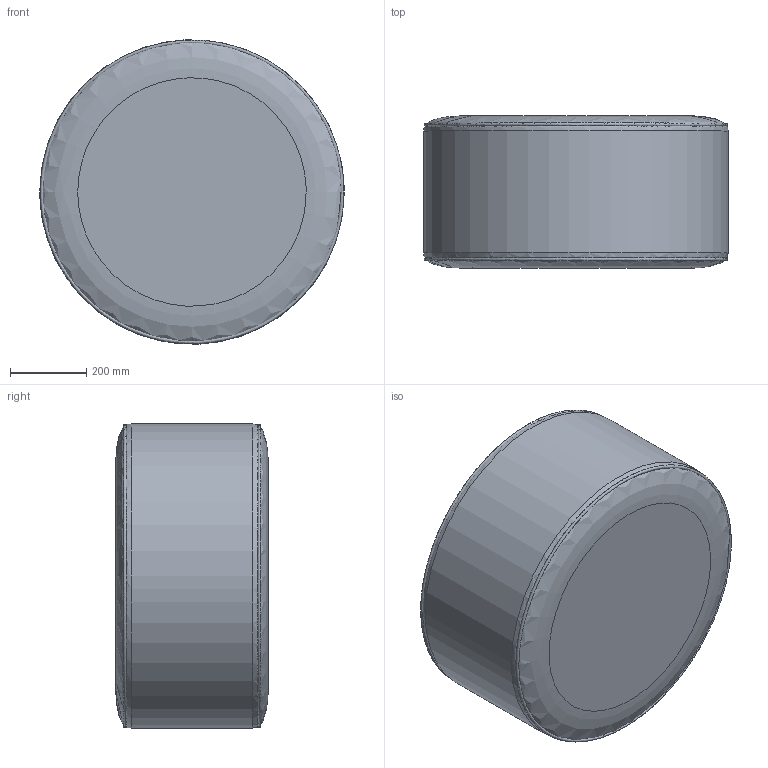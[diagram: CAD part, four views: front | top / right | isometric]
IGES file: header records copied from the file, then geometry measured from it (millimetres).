
Global section: file name: Vincentsheppard_Olaf80; native system: unknown; preprocessor: unknown; author: unknown; organization: unknown; date: 20211124.134353; units: millimetre
Bounding box: 800 x 400 x 799.16 mm (x, y, z)
Volume: 197956018.4 mm3; surface area: 2020224.6 mm2
Topology: 3 solids, 3 shells, 7 faces, 13 edges, 8 vertices
Faces by surface type: bspline 7
